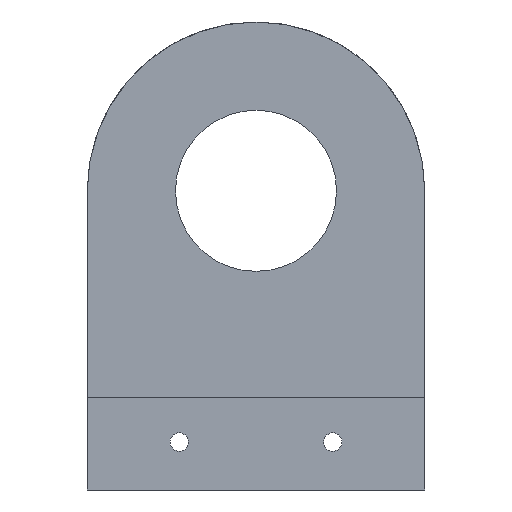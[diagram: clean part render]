
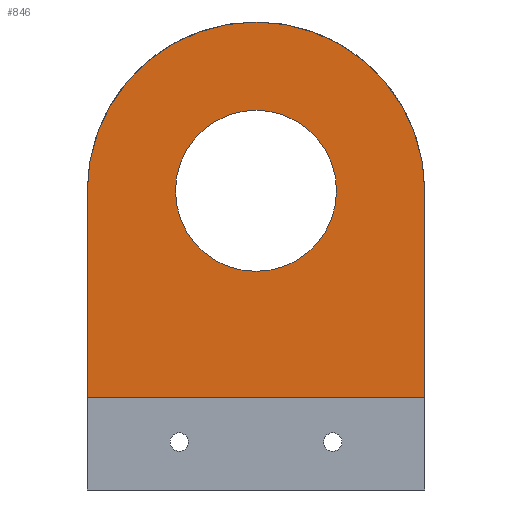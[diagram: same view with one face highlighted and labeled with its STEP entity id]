
A CAD part, left-side view. The second image highlights one B-rep face of the part: STEP entity #846.
In plain terms, the highlighted planar face has unit normal (-1, 0, 0).
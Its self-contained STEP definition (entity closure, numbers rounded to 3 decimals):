
#25=FACE_BOUND('',#124,.T.);
#65=FACE_OUTER_BOUND('',#123,.T.);
#123=EDGE_LOOP('',(#651,#652,#653,#654));
#124=EDGE_LOOP('',(#655));
#172=CIRCLE('',#904,22.);
#186=CIRCLE('',#927,10.5);
#213=LINE('',#1257,#293);
#245=LINE('',#1384,#325);
#246=LINE('',#1386,#326);
#293=VECTOR('',#1000,1.);
#325=VECTOR('',#1082,1.);
#326=VECTOR('',#1085,1.);
#374=VERTEX_POINT('',#1254);
#375=VERTEX_POINT('',#1256);
#380=VERTEX_POINT('',#1268);
#417=VERTEX_POINT('',#1382);
#418=VERTEX_POINT('',#1387);
#455=EDGE_CURVE('',#374,#375,#213,.T.);
#461=EDGE_CURVE('',#375,#380,#172,.T.);
#507=EDGE_CURVE('',#417,#374,#245,.T.);
#508=EDGE_CURVE('',#380,#417,#246,.T.);
#509=EDGE_CURVE('',#418,#418,#186,.T.);
#651=ORIENTED_EDGE('',*,*,#508,.F.);
#652=ORIENTED_EDGE('',*,*,#461,.F.);
#653=ORIENTED_EDGE('',*,*,#455,.F.);
#654=ORIENTED_EDGE('',*,*,#507,.F.);
#655=ORIENTED_EDGE('',*,*,#509,.F.);
#813=PLANE('',#926);
#846=ADVANCED_FACE('',(#65,#25),#813,.F.);
#904=AXIS2_PLACEMENT_3D('',#1269,#1010,#1011);
#926=AXIS2_PLACEMENT_3D('',#1385,#1083,#1084);
#927=AXIS2_PLACEMENT_3D('',#1388,#1086,#1087);
#1000=DIRECTION('',(0.,0.,1.));
#1010=DIRECTION('center_axis',(1.,0.,0.));
#1011=DIRECTION('ref_axis',(0.,0.,-1.));
#1082=DIRECTION('',(0.,1.,0.));
#1083=DIRECTION('center_axis',(1.,0.,0.));
#1084=DIRECTION('ref_axis',(0.,0.,-1.));
#1085=DIRECTION('',(0.,0.,-1.));
#1086=DIRECTION('center_axis',(-1.,0.,0.));
#1087=DIRECTION('ref_axis',(0.,0.,-1.));
#1254=CARTESIAN_POINT('',(-19.,22.,96.));
#1256=CARTESIAN_POINT('',(-19.,22.,123.));
#1257=CARTESIAN_POINT('',(-19.,22.,103.5));
#1268=CARTESIAN_POINT('',(-19.,-22.,123.));
#1269=CARTESIAN_POINT('Origin',(-19.,0.,123.));
#1382=CARTESIAN_POINT('',(-19.,-22.,96.));
#1384=CARTESIAN_POINT('',(-19.,-30.,96.));
#1385=CARTESIAN_POINT('Origin',(-19.,0.,123.));
#1386=CARTESIAN_POINT('',(-19.,-22.,103.5));
#1387=CARTESIAN_POINT('',(-19.,0.,133.5));
#1388=CARTESIAN_POINT('Origin',(-19.,0.,123.));
